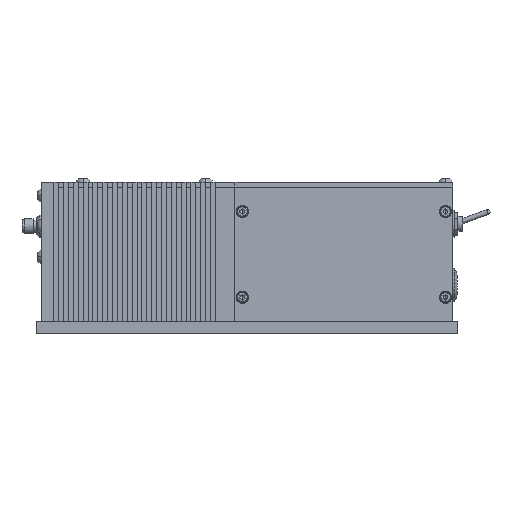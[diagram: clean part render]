
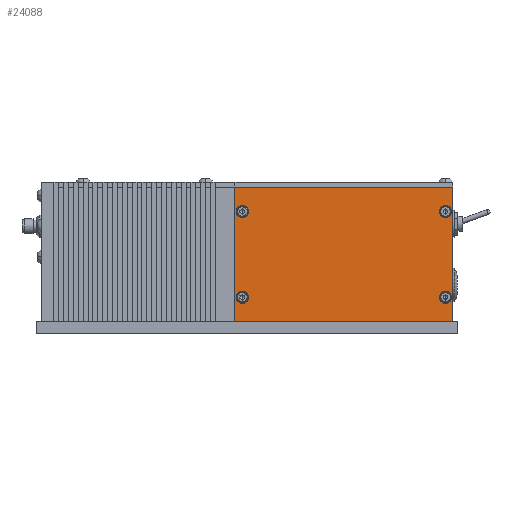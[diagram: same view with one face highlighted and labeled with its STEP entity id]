
A CAD part, front view. The second image highlights one B-rep face of the part: STEP entity #24088.
In plain terms, the highlighted planar face has unit normal (0, -1, 0).
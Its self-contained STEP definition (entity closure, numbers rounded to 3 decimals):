
#215 = CARTESIAN_POINT ( 'NONE',  ( 4.555, -30.416, 38.471 ) ) ;
#1267 = DIRECTION ( 'NONE',  ( 1., 0., 0. ) ) ;
#1468 = VERTEX_POINT ( 'NONE', #40403 ) ;
#1476 = VERTEX_POINT ( 'NONE', #39822 ) ;
#1509 = ORIENTED_EDGE ( 'NONE', *, *, #15782, .T. ) ;
#1621 = EDGE_CURVE ( 'NONE', #23515, #1468, #37675, .T. ) ;
#1963 = VERTEX_POINT ( 'NONE', #29445 ) ;
#2808 = EDGE_LOOP ( 'NONE', ( #35282, #6908 ) ) ;
#3127 = EDGE_CURVE ( 'NONE', #34800, #5639, #5654, .T. ) ;
#3423 = VERTEX_POINT ( 'NONE', #33916 ) ;
#4429 = EDGE_CURVE ( 'NONE', #15668, #1476, #11720, .T. ) ;
#4616 = AXIS2_PLACEMENT_3D ( 'NONE', #11824, #21646, #28476 ) ;
#4830 = EDGE_CURVE ( 'NONE', #1476, #15668, #20166, .T. ) ;
#4850 = CARTESIAN_POINT ( 'NONE',  ( 85.03, -30.416, 38.471 ) ) ;
#4938 = EDGE_LOOP ( 'NONE', ( #18145, #26657 ) ) ;
#5293 = DIRECTION ( 'NONE',  ( 0., -1., 0. ) ) ;
#5639 = VERTEX_POINT ( 'NONE', #14579 ) ;
#5654 = LINE ( 'NONE', #25910, #10462 ) ;
#5838 = DIRECTION ( 'NONE',  ( 1., 0., 0. ) ) ;
#6498 = EDGE_CURVE ( 'NONE', #1963, #30929, #39668, .T. ) ;
#6745 = CARTESIAN_POINT ( 'NONE',  ( 1.555, -30.416, -6.529 ) ) ;
#6908 = ORIENTED_EDGE ( 'NONE', *, *, #31587, .F. ) ;
#8013 = CARTESIAN_POINT ( 'NONE',  ( 87.555, -30.416, 38.471 ) ) ;
#8265 = CIRCLE ( 'NONE', #4616, 2.525 ) ;
#8422 = CARTESIAN_POINT ( 'NONE',  ( 87.555, -30.416, 38.471 ) ) ;
#8443 = CARTESIAN_POINT ( 'NONE',  ( 1.555, -30.416, -6.529 ) ) ;
#8972 = CARTESIAN_POINT ( 'NONE',  ( 4.555, -30.416, 38.471 ) ) ;
#9273 = DIRECTION ( 'NONE',  ( 0., -1., 0. ) ) ;
#10043 = AXIS2_PLACEMENT_3D ( 'NONE', #215, #27744, #24183 ) ;
#10300 = EDGE_LOOP ( 'NONE', ( #1509, #11650, #27980, #20484 ) ) ;
#10462 = VECTOR ( 'NONE', #18948, 1000. ) ;
#10622 = VECTOR ( 'NONE', #42101, 1000. ) ;
#11650 = ORIENTED_EDGE ( 'NONE', *, *, #21443, .T. ) ;
#11720 = CIRCLE ( 'NONE', #10043, 2.525 ) ;
#11824 = CARTESIAN_POINT ( 'NONE',  ( 87.555, -30.416, 3.471 ) ) ;
#12294 = DIRECTION ( 'NONE',  ( 0., -1., 0. ) ) ;
#12601 = LINE ( 'NONE', #32766, #20051 ) ;
#13133 = EDGE_CURVE ( 'NONE', #35349, #3423, #32601, .T. ) ;
#13264 = AXIS2_PLACEMENT_3D ( 'NONE', #8443, #5293, #15017 ) ;
#13720 = DIRECTION ( 'NONE',  ( 1., 0., 0. ) ) ;
#14517 = FACE_BOUND ( 'NONE', #2808, .T. ) ;
#14579 = CARTESIAN_POINT ( 'NONE',  ( 1.555, -30.416, 48.471 ) ) ;
#15017 = DIRECTION ( 'NONE',  ( 1., 0., 0. ) ) ;
#15114 = CARTESIAN_POINT ( 'NONE',  ( 1.555, -30.416, 48.471 ) ) ;
#15668 = VERTEX_POINT ( 'NONE', #21228 ) ;
#15782 = EDGE_CURVE ( 'NONE', #5639, #33605, #32947, .T. ) ;
#15913 = VERTEX_POINT ( 'NONE', #28775 ) ;
#16155 = DIRECTION ( 'NONE',  ( 1., 0., 0. ) ) ;
#16658 = ORIENTED_EDGE ( 'NONE', *, *, #4429, .F. ) ;
#17731 = FACE_BOUND ( 'NONE', #31264, .T. ) ;
#18100 = AXIS2_PLACEMENT_3D ( 'NONE', #8972, #9273, #5838 ) ;
#18145 = ORIENTED_EDGE ( 'NONE', *, *, #19182, .F. ) ;
#18948 = DIRECTION ( 'NONE',  ( -1., 0., 0. ) ) ;
#19182 = EDGE_CURVE ( 'NONE', #3423, #35349, #34267, .T. ) ;
#19638 = AXIS2_PLACEMENT_3D ( 'NONE', #34075, #34220, #13720 ) ;
#20051 = VECTOR ( 'NONE', #32623, 1000. ) ;
#20166 = CIRCLE ( 'NONE', #18100, 2.525 ) ;
#20484 = ORIENTED_EDGE ( 'NONE', *, *, #3127, .T. ) ;
#21228 = CARTESIAN_POINT ( 'NONE',  ( 2.03, -30.416, 38.471 ) ) ;
#21443 = EDGE_CURVE ( 'NONE', #33605, #15913, #24473, .T. ) ;
#21600 = CARTESIAN_POINT ( 'NONE',  ( 7.08, -30.416, 3.471 ) ) ;
#21646 = DIRECTION ( 'NONE',  ( 0., -1., 0. ) ) ;
#21683 = DIRECTION ( 'NONE',  ( 0., -1., 0. ) ) ;
#22837 = CARTESIAN_POINT ( 'NONE',  ( 4.555, -30.416, 3.471 ) ) ;
#22954 = EDGE_CURVE ( 'NONE', #30929, #1963, #8265, .T. ) ;
#23515 = VERTEX_POINT ( 'NONE', #21600 ) ;
#24088 = ADVANCED_FACE ( 'NONE', ( #33641, #33122, #17731, #14517, #43726 ), #31493, .T. ) ;
#24183 = DIRECTION ( 'NONE',  ( 1., 0., 0. ) ) ;
#24473 = LINE ( 'NONE', #28166, #44133 ) ;
#25910 = CARTESIAN_POINT ( 'NONE',  ( 1.555, -30.416, 48.471 ) ) ;
#25936 = AXIS2_PLACEMENT_3D ( 'NONE', #8013, #31776, #32796 ) ;
#26657 = ORIENTED_EDGE ( 'NONE', *, *, #13133, .F. ) ;
#27470 = CIRCLE ( 'NONE', #39500, 2.525 ) ;
#27744 = DIRECTION ( 'NONE',  ( 0., -1., 0. ) ) ;
#27980 = ORIENTED_EDGE ( 'NONE', *, *, #31538, .T. ) ;
#28166 = CARTESIAN_POINT ( 'NONE',  ( 1.555, -30.416, -6.529 ) ) ;
#28310 = ORIENTED_EDGE ( 'NONE', *, *, #4830, .F. ) ;
#28476 = DIRECTION ( 'NONE',  ( 1., 0., 0. ) ) ;
#28682 = AXIS2_PLACEMENT_3D ( 'NONE', #29358, #43131, #36313 ) ;
#28775 = CARTESIAN_POINT ( 'NONE',  ( 90.555, -30.416, -6.529 ) ) ;
#29358 = CARTESIAN_POINT ( 'NONE',  ( 87.555, -30.416, 3.471 ) ) ;
#29445 = CARTESIAN_POINT ( 'NONE',  ( 85.03, -30.416, 3.471 ) ) ;
#29862 = ORIENTED_EDGE ( 'NONE', *, *, #6498, .F. ) ;
#30929 = VERTEX_POINT ( 'NONE', #32576 ) ;
#31264 = EDGE_LOOP ( 'NONE', ( #40756, #29862 ) ) ;
#31493 = PLANE ( 'NONE',  #13264 ) ;
#31538 = EDGE_CURVE ( 'NONE', #15913, #34800, #12601, .T. ) ;
#31587 = EDGE_CURVE ( 'NONE', #1468, #23515, #27470, .T. ) ;
#31776 = DIRECTION ( 'NONE',  ( 0., -1., 0. ) ) ;
#31969 = CARTESIAN_POINT ( 'NONE',  ( 90.555, -30.416, 48.471 ) ) ;
#32576 = CARTESIAN_POINT ( 'NONE',  ( 90.08, -30.416, 3.471 ) ) ;
#32601 = CIRCLE ( 'NONE', #25936, 2.525 ) ;
#32623 = DIRECTION ( 'NONE',  ( 0., 0., 1. ) ) ;
#32766 = CARTESIAN_POINT ( 'NONE',  ( 90.555, -30.416, 48.471 ) ) ;
#32796 = DIRECTION ( 'NONE',  ( 1., 0., 0. ) ) ;
#32947 = LINE ( 'NONE', #15114, #10622 ) ;
#33122 = FACE_BOUND ( 'NONE', #4938, .T. ) ;
#33605 = VERTEX_POINT ( 'NONE', #6745 ) ;
#33641 = FACE_BOUND ( 'NONE', #43722, .T. ) ;
#33916 = CARTESIAN_POINT ( 'NONE',  ( 90.08, -30.416, 38.471 ) ) ;
#34075 = CARTESIAN_POINT ( 'NONE',  ( 4.555, -30.416, 3.471 ) ) ;
#34220 = DIRECTION ( 'NONE',  ( 0., -1., 0. ) ) ;
#34267 = CIRCLE ( 'NONE', #37800, 2.525 ) ;
#34800 = VERTEX_POINT ( 'NONE', #31969 ) ;
#34968 = DIRECTION ( 'NONE',  ( 1., 0., 0. ) ) ;
#35282 = ORIENTED_EDGE ( 'NONE', *, *, #1621, .F. ) ;
#35349 = VERTEX_POINT ( 'NONE', #4850 ) ;
#36313 = DIRECTION ( 'NONE',  ( 1., 0., 0. ) ) ;
#37675 = CIRCLE ( 'NONE', #19638, 2.525 ) ;
#37800 = AXIS2_PLACEMENT_3D ( 'NONE', #8422, #21683, #1267 ) ;
#39500 = AXIS2_PLACEMENT_3D ( 'NONE', #22837, #12294, #16155 ) ;
#39668 = CIRCLE ( 'NONE', #28682, 2.525 ) ;
#39822 = CARTESIAN_POINT ( 'NONE',  ( 7.08, -30.416, 38.471 ) ) ;
#40403 = CARTESIAN_POINT ( 'NONE',  ( 2.03, -30.416, 3.471 ) ) ;
#40756 = ORIENTED_EDGE ( 'NONE', *, *, #22954, .F. ) ;
#42101 = DIRECTION ( 'NONE',  ( 0., 0., -1. ) ) ;
#43131 = DIRECTION ( 'NONE',  ( 0., -1., 0. ) ) ;
#43722 = EDGE_LOOP ( 'NONE', ( #28310, #16658 ) ) ;
#43726 = FACE_OUTER_BOUND ( 'NONE', #10300, .T. ) ;
#44133 = VECTOR ( 'NONE', #34968, 1000. ) ;
